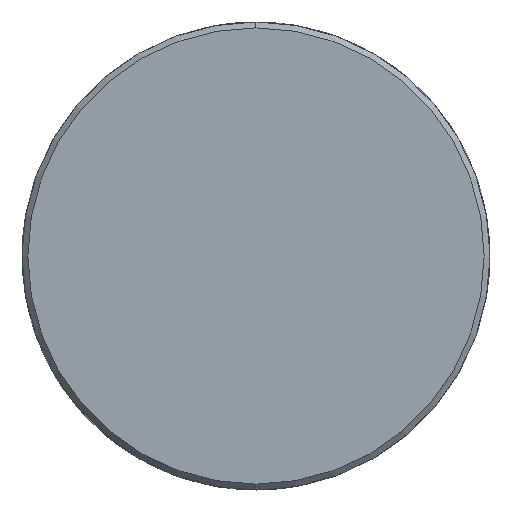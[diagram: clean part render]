
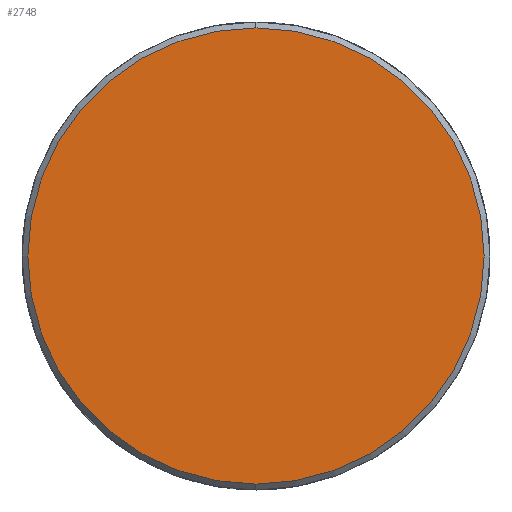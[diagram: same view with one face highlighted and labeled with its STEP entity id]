
A CAD part, left-side view. The second image highlights one B-rep face of the part: STEP entity #2748.
In plain terms, the highlighted planar face has unit normal (-1, 0, 0).
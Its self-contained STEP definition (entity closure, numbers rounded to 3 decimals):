
#879 = DIRECTION ( 'NONE',  ( 0., 0., 1. ) ) ;
#883 = DIRECTION ( 'NONE',  ( -1., 0., 0. ) ) ;
#885 = CARTESIAN_POINT ( 'NONE',  ( 0., 0., 0. ) ) ;
#924 = PLANE ( 'NONE',  #4056 ) ;
#1016 = DIRECTION ( 'NONE',  ( 0., 0., -1. ) ) ;
#1025 = DIRECTION ( 'NONE',  ( 1., 0., 0. ) ) ;
#1032 = CARTESIAN_POINT ( 'NONE',  ( 0., 0., 0. ) ) ;
#1509 = AXIS2_PLACEMENT_3D ( 'NONE', #1032, #1025, #1016 ) ;
#1828 = FACE_OUTER_BOUND ( 'NONE', #2597, .T. ) ;
#1843 = EDGE_CURVE ( 'NONE', #5785, #5851, #2133, .T. ) ;
#2133 = CIRCLE ( 'NONE', #5602, 19.5 ) ;
#2375 = ORIENTED_EDGE ( 'NONE', *, *, #3250, .F. ) ;
#2597 = EDGE_LOOP ( 'NONE', ( #2375, #2838 ) ) ;
#2748 = ADVANCED_FACE ( 'NONE', ( #1828 ), #924, .T. ) ;
#2838 = ORIENTED_EDGE ( 'NONE', *, *, #1843, .F. ) ;
#3250 = EDGE_CURVE ( 'NONE', #5851, #5785, #5977, .T. ) ;
#3419 = CARTESIAN_POINT ( 'NONE',  ( 0., 0., 19.5 ) ) ;
#3978 = DIRECTION ( 'NONE',  ( 0., 0., -1. ) ) ;
#3987 = DIRECTION ( 'NONE',  ( 1., 0., 0. ) ) ;
#3994 = CARTESIAN_POINT ( 'NONE',  ( 0., 0., 0. ) ) ;
#4013 = CARTESIAN_POINT ( 'NONE',  ( 0., 0., -19.5 ) ) ;
#4056 = AXIS2_PLACEMENT_3D ( 'NONE', #885, #883, #879 ) ;
#5602 = AXIS2_PLACEMENT_3D ( 'NONE', #3994, #3987, #3978 ) ;
#5785 = VERTEX_POINT ( 'NONE', #3419 ) ;
#5851 = VERTEX_POINT ( 'NONE', #4013 ) ;
#5977 = CIRCLE ( 'NONE', #1509, 19.5 ) ;
